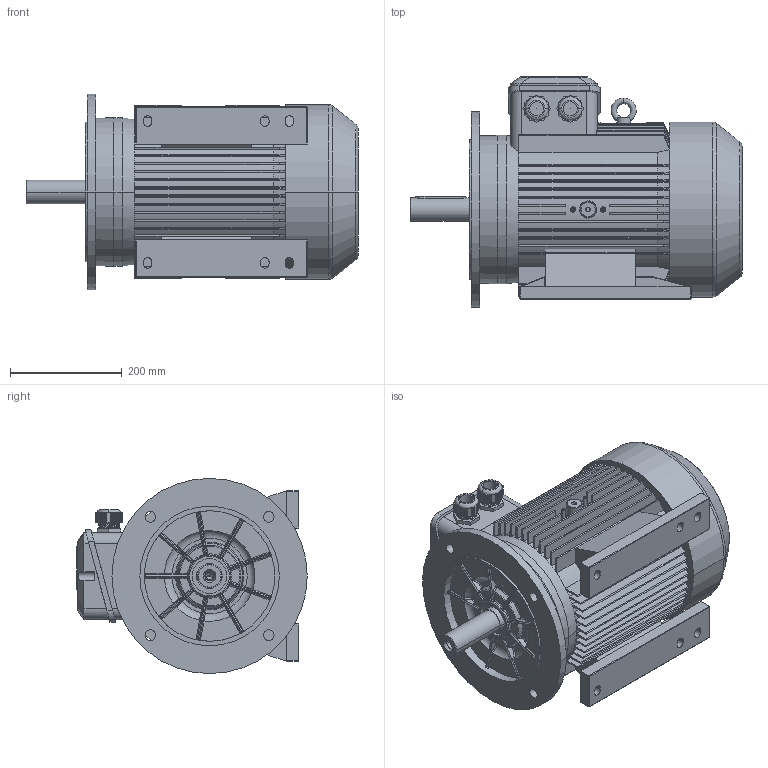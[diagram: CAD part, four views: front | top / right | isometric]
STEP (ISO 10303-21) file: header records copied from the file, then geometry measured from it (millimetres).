
FILE_DESCRIPTION (( 'STEP AP214' ), '1' );
FILE_NAME ('MAP160M2A IM2041 A350 FF300.STEP', '2021-01-15T09:59:53', ( '' ), ( '' ), 'SwSTEP 2.0', 'SolidWorks 2018', '' );
FILE_SCHEMA (( 'AUTOMOTIVE_DESIGN' ));
Products named in the file (1): MAP160M2A IM2041 A350 FF300
Bounding box: 595 x 413 x 350 mm (x, y, z)
Volume: 33736964.5 mm3; surface area: 1617535.8 mm2
Topology: 1 solids, 8 shells, 1844 faces, 4833 edges, 3021 vertices
Faces by surface type: plane 1032, cylinder 380, bspline 178, cone 121, torus 69, sphere 64
Entity records: 75959 total; most frequent: CARTESIAN_POINT 32362, ORIENTED_EDGE 9598, DIRECTION 8404, EDGE_CURVE 4799, VERTEX_POINT 3021, LINE 2920, VECTOR 2920, AXIS2_PLACEMENT_3D 2742
